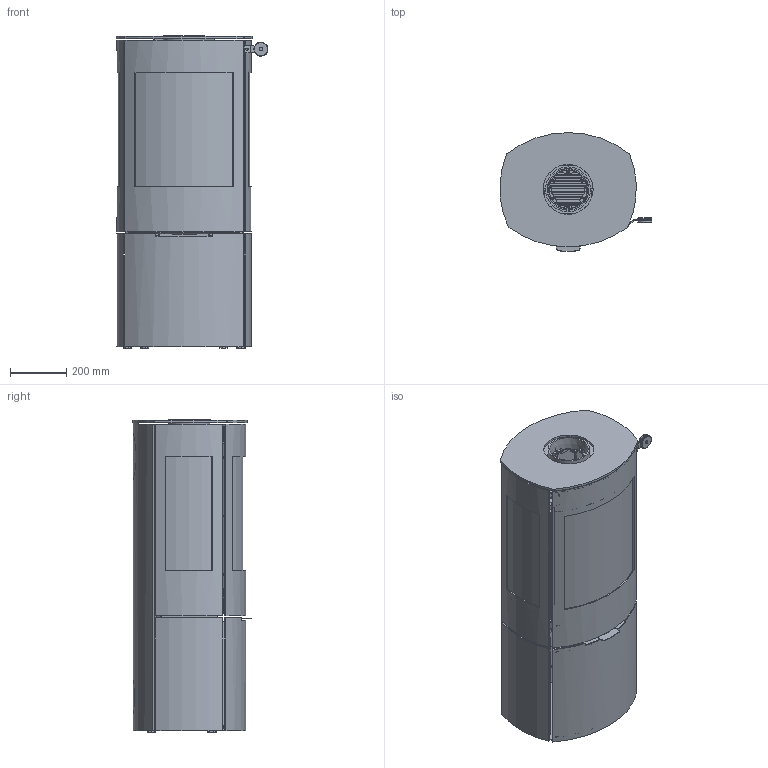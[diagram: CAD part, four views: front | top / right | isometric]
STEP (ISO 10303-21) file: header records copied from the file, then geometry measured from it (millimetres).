
FILE_DESCRIPTION(/* description */ (''),/* implementation_level */ '2;1');
FILE_NAME(/* name */ '14-0431 Caro 110 Classic 3G TO.stp',/* time_stamp */ '2025-02-15T10:05:43+01:00',/* author */ ('pch'),/* organization */ (''),/* preprocessor_version */ 'ST-DEVELOPER v20',/* originating_system */ 'Autodesk Inventor 2025',/* authorisation */ '');
FILE_SCHEMA (('AUTOMOTIVE_DESIGN { 1 0 10303 214 3 1 1 }'));
Products named in the file (1): 14-0431 Caro 110 Classic 3G TO
Bounding box: 541.12 x 421.74 x 1113 mm (x, y, z)
Volume: 20179601 mm3; surface area: 8157904.7 mm2
Topology: 18 solids, 18 shells, 5386 faces, 14708 edges, 9116 vertices
Faces by surface type: plane 2659, cylinder 1743, bspline 505, sphere 190, torus 152, cone 137
Full cylindrical faces by diameter (mm): 3.5 x19, 4.2 x59, 4.917 x3, 5 x17, 5.5 x6, 6 x4, 7 x8, 8 x6, 8.5 x1, 9.5 x1, 10 x10, 12.5 x1, 20 x2, 50 x2, 111 x1, 153.5 x1, 160 x1, 178 x1
Entity records: 200560 total; most frequent: CARTESIAN_POINT 58829, ORIENTED_EDGE 29324, DIRECTION 27782, EDGE_CURVE 14662, LINE 9292, VECTOR 9292, AXIS2_PLACEMENT_3D 9245, VERTEX_POINT 9116
